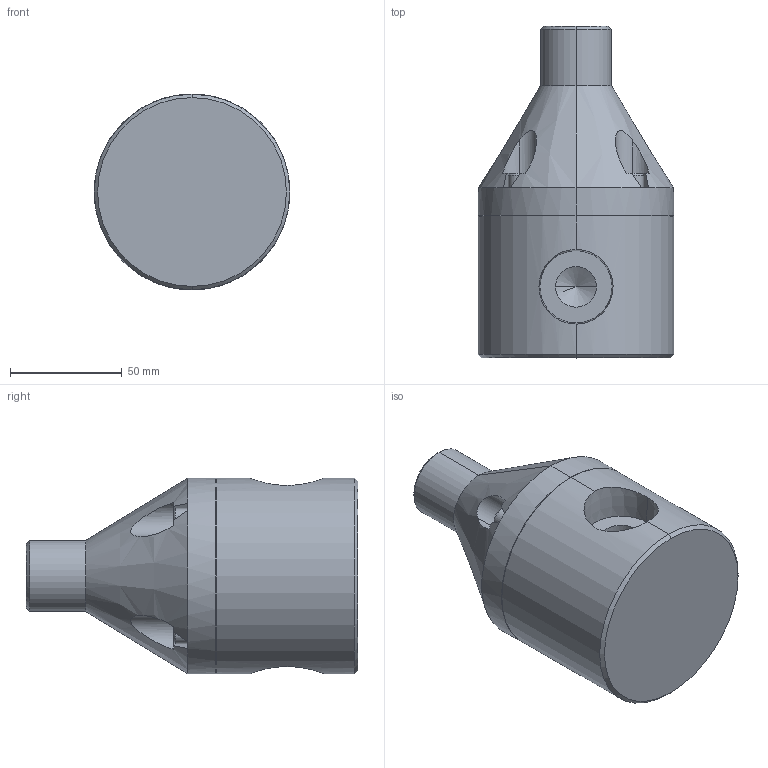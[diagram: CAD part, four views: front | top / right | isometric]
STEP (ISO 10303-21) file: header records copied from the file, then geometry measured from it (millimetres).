
FILE_DESCRIPTION (( 'STEP AP203' ), '1' );
FILE_NAME ('GBP1000-NPT.STEP', '2015-04-27T10:02:00', ( 'Dan Bernard' ), ( '' ), 'SwSTEP 2.0', 'SolidWorks 2008', '' );
FILE_SCHEMA (( 'CONFIG_CONTROL_DESIGN' ));
Length unit declared in the file: inch
Products named in the file (1): GBP1000-NPT
Bounding box: 87.63 x 148.59 x 87.63 mm (x, y, z)
Volume: 577682.6 mm3; surface area: 53172.2 mm2
Topology: 1 solids, 1 shells, 127 faces, 306 edges, 192 vertices
Faces by surface type: plane 71, cylinder 28, cone 28
Entity records: 4137 total; most frequent: CARTESIAN_POINT 1080, DIRECTION 628, ORIENTED_EDGE 604, EDGE_CURVE 302, AXIS2_PLACEMENT_3D 220, VERTEX_POINT 192, VECTOR 188, LINE 188
